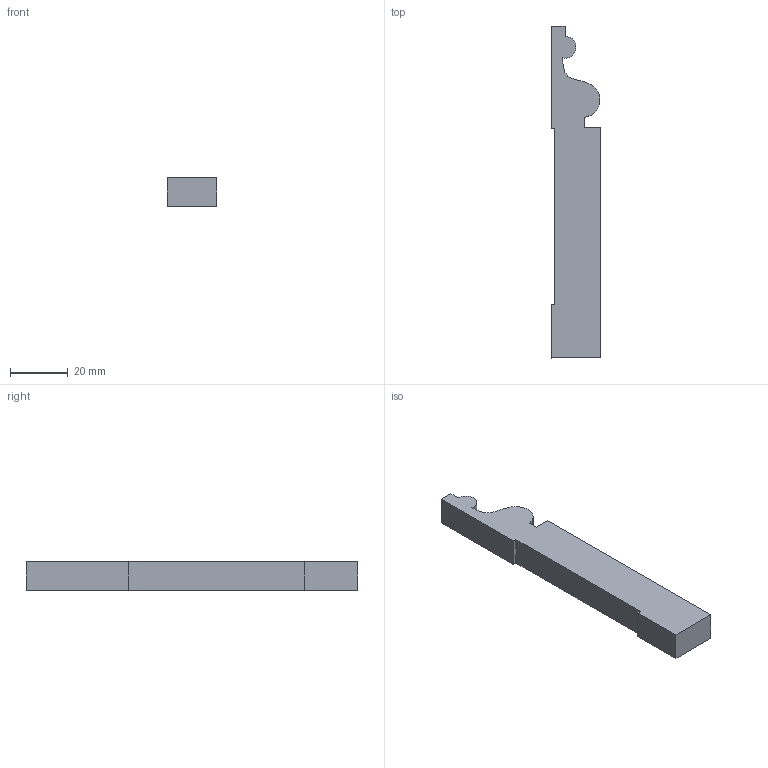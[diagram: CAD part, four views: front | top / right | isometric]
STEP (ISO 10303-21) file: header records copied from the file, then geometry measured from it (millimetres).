
FILE_DESCRIPTION (( 'STEP AP203' ), '1' );
FILE_NAME ('AB206FJ.STEP', '2024-02-17T09:59:36', ( '' ), ( '' ), 'SwSTEP 2.0', 'SolidWorks 2020', '' );
FILE_SCHEMA (( 'CONFIG_CONTROL_DESIGN' ));
Length unit declared in the file: millimetre
Products named in the file (1): AB206FJ
Bounding box: 16.98 x 114.68 x 10 mm (x, y, z)
Volume: 16289.7 mm3; surface area: 6001.6 mm2
Topology: 1 solids, 1 shells, 48 faces, 138 edges, 92 vertices
Faces by surface type: plane 47, cylinder 1
Entity records: 1621 total; most frequent: CARTESIAN_POINT 279, ORIENTED_EDGE 276, DIRECTION 238, EDGE_CURVE 138, LINE 136, VECTOR 136, VERTEX_POINT 92, AXIS2_PLACEMENT_3D 51
